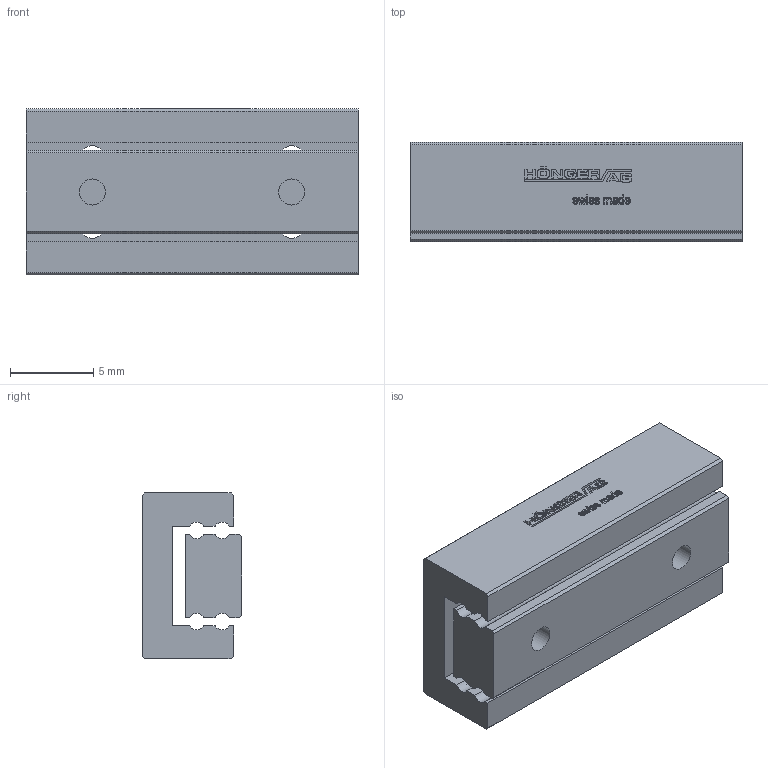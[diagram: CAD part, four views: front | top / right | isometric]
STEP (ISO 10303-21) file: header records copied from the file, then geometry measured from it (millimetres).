
FILE_DESCRIPTION(/* description */ ('STEP AP214'),/* implementation_level */ '2;1');
FILE_NAME(/* name */ 'MSK 5-20.15(0)',/* time_stamp */ '2025-04-16T16:48:33+02:00',/* author */ ('License CC BY-ND 4.0'),/* organization */ ('CADENAS'),/* preprocessor_version */ 'ST-DEVELOPER v19.3',/* originating_system */ 'PARTsolutions',/* authorisation */ ' ');
FILE_SCHEMA (('AUTOMOTIVE_DESIGN {1 0 10303 214 3 1 1}'));
Length unit declared in the file: millimetre
Products named in the file (3): MSK 5-20.15(0); MSK 5-20.15_1; MSK 5-20.15_2
Assembly tree (2 placements, depth 2):
  MSK 5-20.15(0)
    MSK 5-20.15_1
    MSK 5-20.15_2
Bounding box: 20 x 6 x 10 mm (x, y, z)
Volume: 941.9 mm3; surface area: 1275.9 mm2
Topology: 2 solids, 2 shells, 513 faces, 1442 edges, 960 vertices
Faces by surface type: cylinder 306, plane 203, cone 4
Full cylindrical faces by diameter (mm): 1.567 x6
Entity records: 16849 total; most frequent: DIRECTION 3080, CARTESIAN_POINT 2908, ORIENTED_EDGE 2864, EDGE_CURVE 1432, AXIS2_PLACEMENT_3D 1132, VERTEX_POINT 960, LINE 816, VECTOR 816
